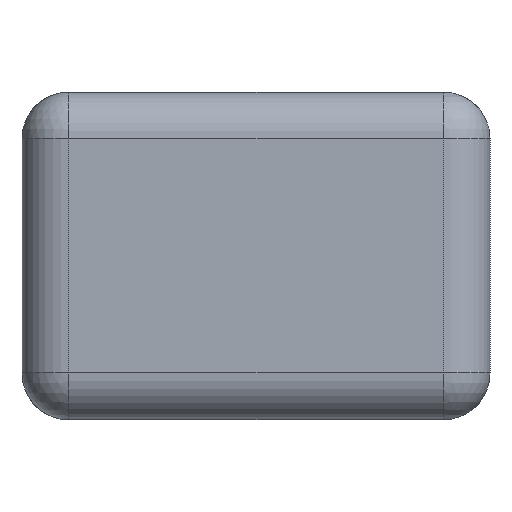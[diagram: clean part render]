
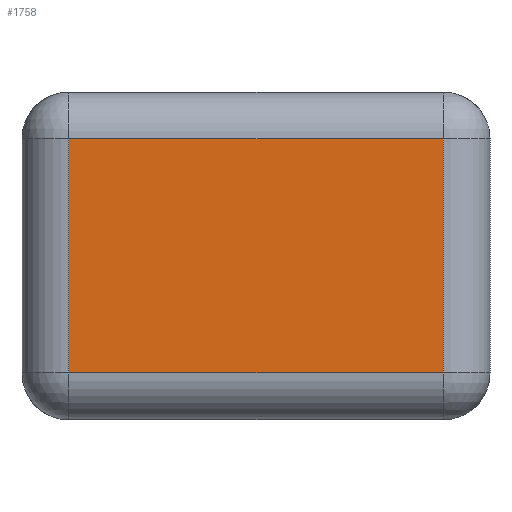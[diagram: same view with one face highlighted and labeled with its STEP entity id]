
A CAD part, left-side view. The second image highlights one B-rep face of the part: STEP entity #1758.
In plain terms, the highlighted planar face has unit normal (-1, 0, 0).
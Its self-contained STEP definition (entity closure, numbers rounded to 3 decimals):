
#296 = CYLINDRICAL_SURFACE('',#297,0.05);
#297 = AXIS2_PLACEMENT_3D('',#298,#299,#300);
#298 = CARTESIAN_POINT('',(-0.5,0.2,0.336));
#299 = DIRECTION('',(0.,0.,-1.));
#300 = DIRECTION('',(0.,1.,0.));
#438 = CYLINDRICAL_SURFACE('',#439,0.05);
#439 = AXIS2_PLACEMENT_3D('',#440,#441,#442);
#440 = CARTESIAN_POINT('',(-0.5,-0.2,0.336));
#441 = DIRECTION('',(0.,0.,-1.));
#442 = DIRECTION('',(0.,1.,0.));
#1747 = CYLINDRICAL_SURFACE('',#1748,0.05);
#1748 = AXIS2_PLACEMENT_3D('',#1749,#1750,#1751);
#1749 = CARTESIAN_POINT('',(-0.5,-0.25,0.336));
#1750 = DIRECTION('',(0.,1.,0.));
#1751 = DIRECTION('',(-1.,0.,0.));
#1758 = ADVANCED_FACE('',(#1759),#1773,.F.);
#1759 = FACE_BOUND('',#1760,.T.);
#1760 = EDGE_LOOP('',(#1761,#1796,#1819,#1842));
#1761 = ORIENTED_EDGE('',*,*,#1762,.T.);
#1762 = EDGE_CURVE('',#1763,#1765,#1767,.T.);
#1763 = VERTEX_POINT('',#1764);
#1764 = CARTESIAN_POINT('',(-0.55,0.2,0.086));
#1765 = VERTEX_POINT('',#1766);
#1766 = CARTESIAN_POINT('',(-0.55,-0.2,0.086));
#1767 = SURFACE_CURVE('',#1768,(#1772,#1784),.PCURVE_S1.);
#1768 = LINE('',#1769,#1770);
#1769 = CARTESIAN_POINT('',(-0.55,-0.25,0.086));
#1770 = VECTOR('',#1771,1.);
#1771 = DIRECTION('',(0.,-1.,0.));
#1772 = PCURVE('',#1773,#1778);
#1773 = PLANE('',#1774);
#1774 = AXIS2_PLACEMENT_3D('',#1775,#1776,#1777);
#1775 = CARTESIAN_POINT('',(-0.55,-0.25,0.336));
#1776 = DIRECTION('',(1.,0.,0.));
#1777 = DIRECTION('',(0.,1.,0.));
#1778 = DEFINITIONAL_REPRESENTATION('',(#1779),#1783);
#1779 = LINE('',#1780,#1781);
#1780 = CARTESIAN_POINT('',(0.,-0.25));
#1781 = VECTOR('',#1782,1.);
#1782 = DIRECTION('',(-1.,0.));
#1783 = ( GEOMETRIC_REPRESENTATION_CONTEXT(2) 
PARAMETRIC_REPRESENTATION_CONTEXT() REPRESENTATION_CONTEXT('2D SPACE',''
  ) );
#1784 = PCURVE('',#1785,#1790);
#1785 = CYLINDRICAL_SURFACE('',#1786,0.05);
#1786 = AXIS2_PLACEMENT_3D('',#1787,#1788,#1789);
#1787 = CARTESIAN_POINT('',(-0.5,-0.25,0.086));
#1788 = DIRECTION('',(0.,1.,0.));
#1789 = DIRECTION('',(-1.,0.,0.));
#1790 = DEFINITIONAL_REPRESENTATION('',(#1791),#1795);
#1791 = LINE('',#1792,#1793);
#1792 = CARTESIAN_POINT('',(6.283,0.));
#1793 = VECTOR('',#1794,1.);
#1794 = DIRECTION('',(0.,-1.));
#1795 = ( GEOMETRIC_REPRESENTATION_CONTEXT(2) 
PARAMETRIC_REPRESENTATION_CONTEXT() REPRESENTATION_CONTEXT('2D SPACE',''
  ) );
#1796 = ORIENTED_EDGE('',*,*,#1797,.T.);
#1797 = EDGE_CURVE('',#1765,#1798,#1800,.T.);
#1798 = VERTEX_POINT('',#1799);
#1799 = CARTESIAN_POINT('',(-0.55,-0.2,0.336));
#1800 = SURFACE_CURVE('',#1801,(#1805,#1812),.PCURVE_S1.);
#1801 = LINE('',#1802,#1803);
#1802 = CARTESIAN_POINT('',(-0.55,-0.2,0.336));
#1803 = VECTOR('',#1804,1.);
#1804 = DIRECTION('',(0.,0.,1.));
#1805 = PCURVE('',#1773,#1806);
#1806 = DEFINITIONAL_REPRESENTATION('',(#1807),#1811);
#1807 = LINE('',#1808,#1809);
#1808 = CARTESIAN_POINT('',(0.05,0.));
#1809 = VECTOR('',#1810,1.);
#1810 = DIRECTION('',(0.,1.));
#1811 = ( GEOMETRIC_REPRESENTATION_CONTEXT(2) 
PARAMETRIC_REPRESENTATION_CONTEXT() REPRESENTATION_CONTEXT('2D SPACE',''
  ) );
#1812 = PCURVE('',#438,#1813);
#1813 = DEFINITIONAL_REPRESENTATION('',(#1814),#1818);
#1814 = LINE('',#1815,#1816);
#1815 = CARTESIAN_POINT('',(4.712,0.));
#1816 = VECTOR('',#1817,1.);
#1817 = DIRECTION('',(0.,-1.));
#1818 = ( GEOMETRIC_REPRESENTATION_CONTEXT(2) 
PARAMETRIC_REPRESENTATION_CONTEXT() REPRESENTATION_CONTEXT('2D SPACE',''
  ) );
#1819 = ORIENTED_EDGE('',*,*,#1820,.T.);
#1820 = EDGE_CURVE('',#1798,#1821,#1823,.T.);
#1821 = VERTEX_POINT('',#1822);
#1822 = CARTESIAN_POINT('',(-0.55,0.2,0.336));
#1823 = SURFACE_CURVE('',#1824,(#1828,#1835),.PCURVE_S1.);
#1824 = LINE('',#1825,#1826);
#1825 = CARTESIAN_POINT('',(-0.55,-0.25,0.336));
#1826 = VECTOR('',#1827,1.);
#1827 = DIRECTION('',(0.,1.,0.));
#1828 = PCURVE('',#1773,#1829);
#1829 = DEFINITIONAL_REPRESENTATION('',(#1830),#1834);
#1830 = LINE('',#1831,#1832);
#1831 = CARTESIAN_POINT('',(0.,0.));
#1832 = VECTOR('',#1833,1.);
#1833 = DIRECTION('',(1.,0.));
#1834 = ( GEOMETRIC_REPRESENTATION_CONTEXT(2) 
PARAMETRIC_REPRESENTATION_CONTEXT() REPRESENTATION_CONTEXT('2D SPACE',''
  ) );
#1835 = PCURVE('',#1747,#1836);
#1836 = DEFINITIONAL_REPRESENTATION('',(#1837),#1841);
#1837 = LINE('',#1838,#1839);
#1838 = CARTESIAN_POINT('',(0.,0.));
#1839 = VECTOR('',#1840,1.);
#1840 = DIRECTION('',(0.,1.));
#1841 = ( GEOMETRIC_REPRESENTATION_CONTEXT(2) 
PARAMETRIC_REPRESENTATION_CONTEXT() REPRESENTATION_CONTEXT('2D SPACE',''
  ) );
#1842 = ORIENTED_EDGE('',*,*,#1843,.T.);
#1843 = EDGE_CURVE('',#1821,#1763,#1844,.T.);
#1844 = SURFACE_CURVE('',#1845,(#1849,#1856),.PCURVE_S1.);
#1845 = LINE('',#1846,#1847);
#1846 = CARTESIAN_POINT('',(-0.55,0.2,0.336));
#1847 = VECTOR('',#1848,1.);
#1848 = DIRECTION('',(0.,0.,-1.));
#1849 = PCURVE('',#1773,#1850);
#1850 = DEFINITIONAL_REPRESENTATION('',(#1851),#1855);
#1851 = LINE('',#1852,#1853);
#1852 = CARTESIAN_POINT('',(0.45,0.));
#1853 = VECTOR('',#1854,1.);
#1854 = DIRECTION('',(0.,-1.));
#1855 = ( GEOMETRIC_REPRESENTATION_CONTEXT(2) 
PARAMETRIC_REPRESENTATION_CONTEXT() REPRESENTATION_CONTEXT('2D SPACE',''
  ) );
#1856 = PCURVE('',#296,#1857);
#1857 = DEFINITIONAL_REPRESENTATION('',(#1858),#1862);
#1858 = LINE('',#1859,#1860);
#1859 = CARTESIAN_POINT('',(4.712,0.));
#1860 = VECTOR('',#1861,1.);
#1861 = DIRECTION('',(0.,1.));
#1862 = ( GEOMETRIC_REPRESENTATION_CONTEXT(2) 
PARAMETRIC_REPRESENTATION_CONTEXT() REPRESENTATION_CONTEXT('2D SPACE',''
  ) );
